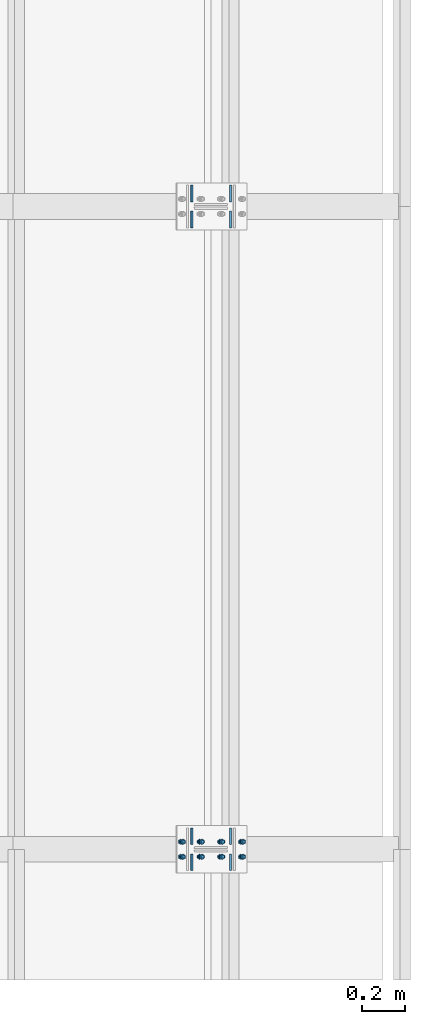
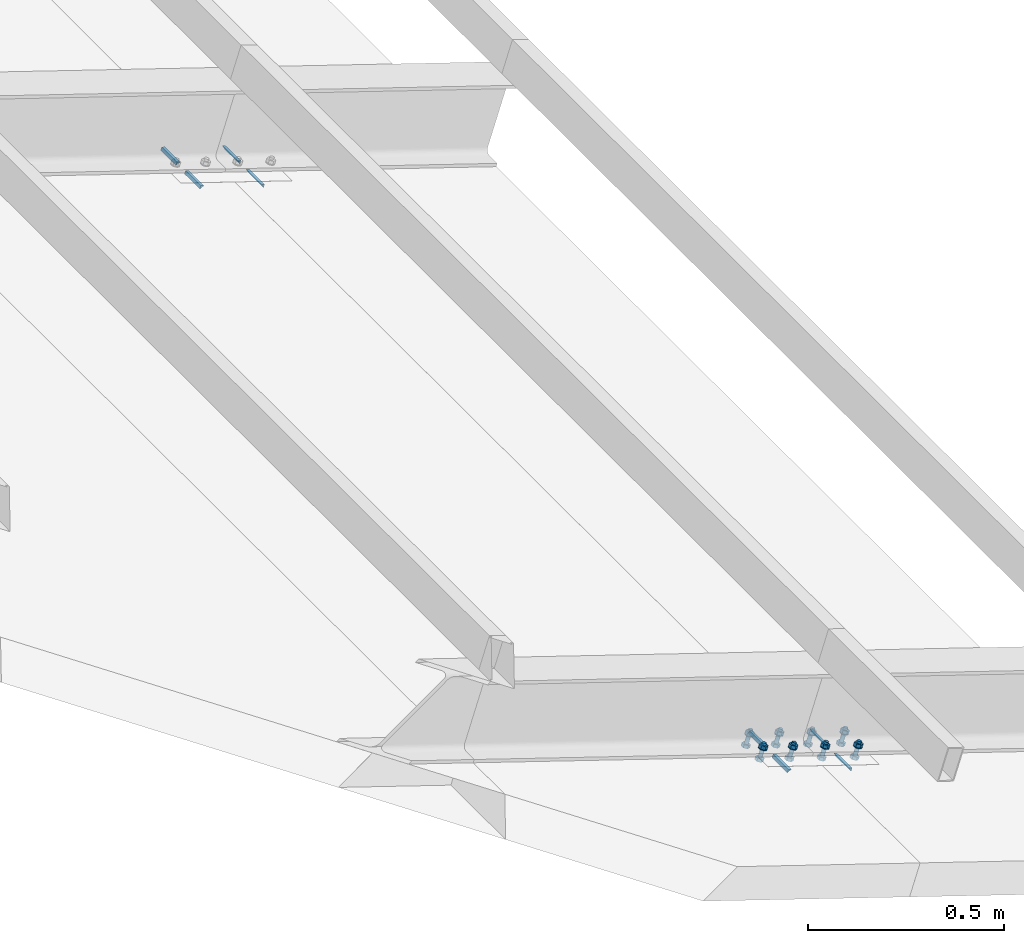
# One storey, part 30 of 53: 32 mechanical fasteners, 16 fasteners.
"""IFC4 building model written with IfcOpenShell, lengths in metres."""

from ifc_helpers import new_model, si_unit, frame, origin_with_axes, place, context, project, spatial, polyline, outline, extrude, type_object, element, save


model = new_model("IFC4")

# Units and contexts
model_context = context("Model", 3, precision=1e-05, world=origin_with_axes())
ifc_project = project(units=[si_unit("LENGTHUNIT", "METRE"), si_unit("AREAUNIT", "SQUARE_METRE"), si_unit("VOLUMEUNIT", "CUBIC_METRE"), si_unit("MASSUNIT", "GRAM", prefix="KILO"), si_unit("TIMEUNIT", "SECOND"), si_unit("PLANEANGLEUNIT", "RADIAN"), si_unit("SOLIDANGLEUNIT", "STERADIAN"), si_unit("THERMODYNAMICTEMPERATUREUNIT", "DEGREE_CELSIUS")], contexts=[model_context])

# Site, building, storey
placement_1 = place(None, origin_with_axes())
site = spatial("IfcSite", under=ifc_project, at=placement_1, Name="Italia", CompositionType="ELEMENT")
building = spatial("IfcBuilding", under=site, at=placement_1, Name="Capannone", CompositionType="ELEMENT")
storey_placement = place(None, frame((0.0, 0.0, 5.550000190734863), z_axis=(0.0, 0.0, 1.0), x_axis=(1.0, 0.0, 0.0)))
storey = spatial("IfcBuildingStorey", under=building, at=storey_placement, Name="Storey 1", CompositionType="ELEMENT", Elevation=5.550000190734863)

# Fasteners
fastener_type_1 = type_object("IfcFastenerType", Name="Collegamenti 0102_0002 0104_0004 0106_0006 0108_0008 0110_0010 0112_0012", PredefinedType="WELD")
placement_2 = place(placement_1, origin_with_axes())
fastener_1_placement = place(placement_2, origin_with_axes())
element("IfcFastener", 1, at=fastener_1_placement, inside=storey, type_object=fastener_type_1, Name="Collegamenti 0102_0002 0104_0004 0106_0006 0108_0008 0110_0010 0112_0012", context=model_context, shape_type="SweptSolid", body=[
    extrude(outline(polyline([(0.0, 0.0), (-0.0125504, -0.00658464), (-0.00937462, 0.00308037), (0.0, 0.0)])), frame((13.9153, 0.10005, 5.56208), z_axis=(0.0, -1.0, 0.0), x_axis=(1.0, 0.0, 0.0)), (0.0, 0.0, 1.0), 0.0786),
])
fastener_type_2 = type_object("IfcFastenerType", Name="Collegamenti 0102_0002 0104_0004 0106_0006 0108_0008 0110_0010 0112_0012", PredefinedType="WELD")
fastener_2_placement = place(placement_2, origin_with_axes())
element("IfcFastener", 2, at=fastener_2_placement, inside=storey, type_object=fastener_type_2, Name="Collegamenti 0102_0002 0104_0004 0106_0006 0108_0008 0110_0010 0112_0012", context=model_context, shape_type="SweptSolid", body=[
    extrude(outline(polyline([(0.0, 0.0), (-0.00619984, -0.0127454), (-0.00937557, -0.00308037), (0.0, 0.0)])), frame((14.0847, 0.02145, 5.50644), z_axis=(0.0, 1.0, 0.0), x_axis=(-1.0, 0.0, 0.0)), (0.0, 0.0, 1.0), 0.0786),
])
fastener_type_3 = type_object("IfcFastenerType", Name="Collegamenti 0102_0002 0104_0004 0106_0006 0108_0008 0110_0010 0112_0012", PredefinedType="WELD")
fastener_3_placement = place(placement_2, origin_with_axes())
element("IfcFastener", 3, at=fastener_3_placement, inside=storey, type_object=fastener_type_3, Name="Collegamenti 0102_0002 0104_0004 0106_0006 0108_0008 0110_0010 0112_0012", context=model_context, shape_type="SweptSolid", body=[
    extrude(outline(polyline([(0.0, 0.0), (-0.00619984, -0.0127454), (-0.00937557, -0.00308037), (0.0, 0.0)])), frame((14.0847, -0.10005, 5.50644), z_axis=(0.0, 1.0, 0.0), x_axis=(-1.0, 0.0, 0.0)), (0.0, 0.0, 1.0), 0.0786),
])
fastener_type_4 = type_object("IfcFastenerType", Name="Collegamenti 0102_0002 0104_0004 0106_0006 0108_0008 0110_0010 0112_0012", PredefinedType="WELD")
fastener_4_placement = place(placement_2, origin_with_axes())
element("IfcFastener", 4, at=fastener_4_placement, inside=storey, type_object=fastener_type_4, Name="Collegamenti 0102_0002 0104_0004 0106_0006 0108_0008 0110_0010 0112_0012", context=model_context, shape_type="SweptSolid", body=[
    extrude(outline(polyline([(0.0, 0.0), (-0.0125504, -0.00658464), (-0.00937462, 0.00308037), (0.0, 0.0)])), frame((13.9153, -0.02145, 5.56208), z_axis=(0.0, -1.0, 0.0), x_axis=(1.0, 0.0, 0.0)), (0.0, 0.0, 1.0), 0.0786),
])
fastener_type_5 = type_object("IfcFastenerType", Name="Collegamenti 0102_0002 0104_0004 0106_0006 0108_0008 0110_0010 0112_0012", PredefinedType="WELD")
fastener_5_placement = place(placement_2, origin_with_axes())
element("IfcFastener", 5, at=fastener_5_placement, inside=storey, type_object=fastener_type_5, Name="Collegamenti 0102_0002 0104_0004 0106_0006 0108_0008 0110_0010 0112_0012", context=model_context, shape_type="SweptSolid", body=[
    extrude(outline(polyline([(0.0, 0.0), (-0.0125504, -0.00658464), (-0.00937462, 0.00308037), (0.0, 0.0)])), frame((13.9153, 0.10005, 5.56208), z_axis=(0.0, -1.0, 0.0), x_axis=(1.0, 0.0, 0.0)), (0.0, 0.0, 1.0), 0.0786),
])
fastener_type_6 = type_object("IfcFastenerType", Name="Collegamenti 0102_0002 0104_0004 0106_0006 0108_0008 0110_0010 0112_0012", PredefinedType="WELD")
fastener_6_placement = place(placement_2, origin_with_axes())
element("IfcFastener", 6, at=fastener_6_placement, inside=storey, type_object=fastener_type_6, Name="Collegamenti 0102_0002 0104_0004 0106_0006 0108_0008 0110_0010 0112_0012", context=model_context, shape_type="SweptSolid", body=[
    extrude(outline(polyline([(0.0, 0.0), (-0.00619984, -0.0127454), (-0.00937557, -0.00308037), (0.0, 0.0)])), frame((14.0847, 0.02145, 5.50644), z_axis=(0.0, 1.0, 0.0), x_axis=(-1.0, 0.0, 0.0)), (0.0, 0.0, 1.0), 0.0786),
])
fastener_type_7 = type_object("IfcFastenerType", Name="Collegamenti 0102_0002 0104_0004 0106_0006 0108_0008 0110_0010 0112_0012", PredefinedType="WELD")
fastener_7_placement = place(placement_2, origin_with_axes())
element("IfcFastener", 7, at=fastener_7_placement, inside=storey, type_object=fastener_type_7, Name="Collegamenti 0102_0002 0104_0004 0106_0006 0108_0008 0110_0010 0112_0012", context=model_context, shape_type="SweptSolid", body=[
    extrude(outline(polyline([(0.0, 0.0), (-0.00619984, -0.0127454), (-0.00937557, -0.00308037), (0.0, 0.0)])), frame((14.0847, -0.10005, 5.50644), z_axis=(0.0, 1.0, 0.0), x_axis=(-1.0, 0.0, 0.0)), (0.0, 0.0, 1.0), 0.0786),
])
fastener_type_8 = type_object("IfcFastenerType", Name="Collegamenti 0102_0002 0104_0004 0106_0006 0108_0008 0110_0010 0112_0012", PredefinedType="WELD")
fastener_8_placement = place(placement_2, origin_with_axes())
element("IfcFastener", 8, at=fastener_8_placement, inside=storey, type_object=fastener_type_8, Name="Collegamenti 0102_0002 0104_0004 0106_0006 0108_0008 0110_0010 0112_0012", context=model_context, shape_type="SweptSolid", body=[
    extrude(outline(polyline([(0.0, 0.0), (-0.0125504, -0.00658464), (-0.00937462, 0.00308037), (0.0, 0.0)])), frame((13.9153, -0.02145, 5.56208), z_axis=(0.0, -1.0, 0.0), x_axis=(1.0, 0.0, 0.0)), (0.0, 0.0, 1.0), 0.0786),
])

# Mechanical fasteners
mechanical_fastener_type_1 = type_object("IfcMechanicalFastenerType", Name="Collegamenti 0102_0002 0104_0004 0106_0006 0108_0008 0110_0010 0112_0012", PredefinedType="BOLT")
mechanical_fastener_1_placement = place(placement_2, origin_with_axes())
element("IfcMechanicalFastener", 9, at=mechanical_fastener_1_placement, inside=storey, type_object=mechanical_fastener_type_1, Name="Collegamenti 0102_0002 0104_0004 0106_0006 0108_0008 0110_0010 0112_0012", NominalDiameter=0.012, context=model_context, shape_type="SweptSolid", body=[
    extrude(outline(polyline([(0.0, 0.0), (-0.012, 0.0), (-0.018, 0.0103931), (-0.012, 0.0207853), (0.0, 0.0207853), (0.006, 0.0103931), (0.0, 0.0)])), frame((13.8697, 0.029, 5.57702), z_axis=(-0.312231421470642, 0.0, -0.950006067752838), x_axis=(0.0, -1.0, 0.0)), (0.0, 0.0, 1.0), 0.00959993),
])
mechanical_fastener_type_2 = type_object("IfcMechanicalFastenerType", Name="Collegamenti 0102_0002 0104_0004 0106_0006 0108_0008 0110_0010 0112_0012", PredefinedType="BOLT")
mechanical_fastener_2_placement = place(placement_2, origin_with_axes())
element("IfcMechanicalFastener", 10, at=mechanical_fastener_2_placement, inside=storey, type_object=mechanical_fastener_type_2, Name="Collegamenti 0102_0002 0104_0004 0106_0006 0108_0008 0110_0010 0112_0012", NominalDiameter=0.012, context=model_context, shape_type="SweptSolid", body=[
    extrude(outline(polyline([(0.0, 0.0), (-0.000204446, -0.00155354), (-0.000803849, -0.00300121), (-0.00175736, -0.0042429), (-0.003, -0.00519562), (-0.00444709, -0.00579548), (-0.006, -0.00599957), (-0.00755291, -0.00579548), (-0.009, -0.00519562), (-0.0102426, -0.0042429), (-0.0111962, -0.00300121), (-0.0117956, -0.00155354), (-0.012, 0.0), (-0.0117956, 0.00155258), (-0.0111962, 0.00300026), (-0.0102426, 0.00424194), (-0.009, 0.00519562), (-0.00755291, 0.00579548), (-0.006, 0.00599957), (-0.00444709, 0.00579548), (-0.003, 0.00519562), (-0.00175736, 0.00424194), (-0.000803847, 0.00300026), (-0.000204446, 0.00155258), (0.0, 0.0)])), frame((13.8732, 0.029, 5.62092), z_axis=(-0.312153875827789, 0.0, -0.950031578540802), x_axis=(0.0, -1.0, 0.0)), (0.0, 0.0, 1.0), 0.0427995),
])
mechanical_fastener_type_3 = type_object("IfcMechanicalFastenerType", Name="Collegamenti 0102_0002 0104_0004 0106_0006 0108_0008 0110_0010 0112_0012", PredefinedType="BOLT")
mechanical_fastener_3_placement = place(placement_2, origin_with_axes())
element("IfcMechanicalFastener", 11, at=mechanical_fastener_3_placement, inside=storey, type_object=mechanical_fastener_type_3, Name="Collegamenti 0102_0002 0104_0004 0106_0006 0108_0008 0110_0010 0112_0012", NominalDiameter=0.0119995, context=model_context, shape_type="SweptSolid", body=[
    extrude(outline(polyline([(0.0, 0.0), (-0.012, 0.0), (-0.018, 0.0103922), (-0.012, 0.0207844), (0.0, 0.0207844), (0.006, 0.0103922), (0.0, 0.0)])), frame((13.8811, 0.029, 5.6116), z_axis=(-0.312141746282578, 0.0, -0.950035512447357), x_axis=(0.0, -1.0, 0.0)), (0.0, 0.0, 1.0), 0.00959963),
])
mechanical_fastener_type_4 = type_object("IfcMechanicalFastenerType", Name="Collegamenti 0102_0002 0104_0004 0106_0006 0108_0008 0110_0010 0112_0012", PredefinedType="BOLT")
mechanical_fastener_4_placement = place(placement_2, origin_with_axes())
element("IfcMechanicalFastener", 12, at=mechanical_fastener_4_placement, inside=storey, type_object=mechanical_fastener_type_4, Name="Collegamenti 0102_0002 0104_0004 0106_0006 0108_0008 0110_0010 0112_0012", NominalDiameter=0.024, context=model_context, shape_type="SweptSolid", body=[
    extrude(outline(polyline([(0.0, 0.0), (-0.00040889, -0.00310612), (-0.0016077, -0.00600052), (-0.00351472, -0.00848484), (-0.006, -0.0103931), (-0.00889417, -0.011591), (-0.012, -0.0120001), (-0.0151058, -0.011591), (-0.018, -0.0103931), (-0.0204853, -0.00848484), (-0.0223923, -0.00600052), (-0.0235911, -0.00310612), (-0.024, 0.0), (-0.0235911, 0.00310516), (-0.0223923, 0.00599957), (-0.0204853, 0.00848484), (-0.018, 0.0103922), (-0.0151058, 0.01159), (-0.012, 0.0119991), (-0.00889417, 0.01159), (-0.006, 0.0103922), (-0.00351472, 0.00848484), (-0.00160769, 0.00599957), (-0.00040889, 0.00310516), (0.0, 0.0)])), frame((13.8682, 0.023, 5.60572), z_axis=(-0.312362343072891, 0.0, -0.94996303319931), x_axis=(0.0, -1.0, 0.0)), (0.0, 0.0, 1.0), 0.00199978),
])
mechanical_fastener_type_5 = type_object("IfcMechanicalFastenerType", Name="Collegamenti 0102_0002 0104_0004 0106_0006 0108_0008 0110_0010 0112_0012", PredefinedType="BOLT")
mechanical_fastener_5_placement = place(placement_2, origin_with_axes())
element("IfcMechanicalFastener", 13, at=mechanical_fastener_5_placement, inside=storey, type_object=mechanical_fastener_type_5, Name="Collegamenti 0102_0002 0104_0004 0106_0006 0108_0008 0110_0010 0112_0012", NominalDiameter=0.012, context=model_context, shape_type="SweptSolid", body=[
    extrude(outline(polyline([(0.0, 0.0), (-0.012, 0.0), (-0.018, 0.0103931), (-0.012, 0.0207853), (0.0, 0.0207853), (0.006, 0.0103931), (0.0, 0.0)])), frame((13.8697, -0.041, 5.57702), z_axis=(-0.312231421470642, 0.0, -0.950006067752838), x_axis=(0.0, -1.0, 0.0)), (0.0, 0.0, 1.0), 0.00959993),
])
mechanical_fastener_type_6 = type_object("IfcMechanicalFastenerType", Name="Collegamenti 0102_0002 0104_0004 0106_0006 0108_0008 0110_0010 0112_0012", PredefinedType="BOLT")
mechanical_fastener_6_placement = place(placement_2, origin_with_axes())
element("IfcMechanicalFastener", 14, at=mechanical_fastener_6_placement, inside=storey, type_object=mechanical_fastener_type_6, Name="Collegamenti 0102_0002 0104_0004 0106_0006 0108_0008 0110_0010 0112_0012", NominalDiameter=0.012, context=model_context, shape_type="SweptSolid", body=[
    extrude(outline(polyline([(0.0, 0.0), (-0.000204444, -0.00155354), (-0.000803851, -0.00300121), (-0.00175736, -0.0042429), (-0.003, -0.00519562), (-0.00444709, -0.00579548), (-0.006, -0.00599957), (-0.00755291, -0.00579548), (-0.009, -0.00519562), (-0.0102426, -0.0042429), (-0.0111962, -0.00300121), (-0.0117956, -0.00155354), (-0.012, 0.0), (-0.0117956, 0.00155258), (-0.0111962, 0.00300026), (-0.0102426, 0.00424194), (-0.009, 0.00519562), (-0.00755291, 0.00579548), (-0.006, 0.00599957), (-0.00444709, 0.00579548), (-0.003, 0.00519562), (-0.00175736, 0.00424194), (-0.000803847, 0.00300026), (-0.000204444, 0.00155258), (0.0, 0.0)])), frame((13.8732, -0.041, 5.62092), z_axis=(-0.312153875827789, 0.0, -0.950031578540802), x_axis=(0.0, -1.0, 0.0)), (0.0, 0.0, 1.0), 0.0427995),
])
mechanical_fastener_type_7 = type_object("IfcMechanicalFastenerType", Name="Collegamenti 0102_0002 0104_0004 0106_0006 0108_0008 0110_0010 0112_0012", PredefinedType="BOLT")
mechanical_fastener_7_placement = place(placement_2, origin_with_axes())
element("IfcMechanicalFastener", 15, at=mechanical_fastener_7_placement, inside=storey, type_object=mechanical_fastener_type_7, Name="Collegamenti 0102_0002 0104_0004 0106_0006 0108_0008 0110_0010 0112_0012", NominalDiameter=0.0119995, context=model_context, shape_type="SweptSolid", body=[
    extrude(outline(polyline([(0.0, 0.0), (-0.012, 0.0), (-0.018, 0.0103922), (-0.012, 0.0207844), (0.0, 0.0207844), (0.006, 0.0103922), (0.0, 0.0)])), frame((13.8811, -0.041, 5.6116), z_axis=(-0.312141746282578, 0.0, -0.950035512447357), x_axis=(0.0, -1.0, 0.0)), (0.0, 0.0, 1.0), 0.00959963),
])
mechanical_fastener_type_8 = type_object("IfcMechanicalFastenerType", Name="Collegamenti 0102_0002 0104_0004 0106_0006 0108_0008 0110_0010 0112_0012", PredefinedType="BOLT")
mechanical_fastener_8_placement = place(placement_2, origin_with_axes())
element("IfcMechanicalFastener", 16, at=mechanical_fastener_8_placement, inside=storey, type_object=mechanical_fastener_type_8, Name="Collegamenti 0102_0002 0104_0004 0106_0006 0108_0008 0110_0010 0112_0012", NominalDiameter=0.024, context=model_context, shape_type="SweptSolid", body=[
    extrude(outline(polyline([(0.0, 0.0), (-0.000408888, -0.00310612), (-0.00160769, -0.00600052), (-0.00351472, -0.00848484), (-0.006, -0.0103931), (-0.00889417, -0.011591), (-0.012, -0.0120001), (-0.0151058, -0.011591), (-0.018, -0.0103931), (-0.0204853, -0.00848484), (-0.0223923, -0.00600052), (-0.0235911, -0.00310612), (-0.024, 0.0), (-0.0235911, 0.00310516), (-0.0223923, 0.00599957), (-0.0204853, 0.00848484), (-0.018, 0.0103922), (-0.0151058, 0.01159), (-0.012, 0.0119991), (-0.00889417, 0.01159), (-0.006, 0.0103922), (-0.00351471, 0.00848484), (-0.00160769, 0.00599957), (-0.000408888, 0.00310516), (0.0, 0.0)])), frame((13.8682, -0.047, 5.60572), z_axis=(-0.312362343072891, 0.0, -0.94996303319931), x_axis=(0.0, -1.0, 0.0)), (0.0, 0.0, 1.0), 0.00199978),
])
mechanical_fastener_type_9 = type_object("IfcMechanicalFastenerType", Name="Collegamenti 0102_0002 0104_0004 0106_0006 0108_0008 0110_0010 0112_0012", PredefinedType="BOLT")
mechanical_fastener_9_placement = place(placement_2, origin_with_axes())
element("IfcMechanicalFastener", 17, at=mechanical_fastener_9_placement, inside=storey, type_object=mechanical_fastener_type_9, Name="Collegamenti 0102_0002 0104_0004 0106_0006 0108_0008 0110_0010 0112_0012", NominalDiameter=0.0119995, context=model_context, shape_type="SweptSolid", body=[
    extrude(outline(polyline([(0.0, 0.0), (-0.012, 0.0), (-0.018, 0.0103931), (-0.012, 0.0207844), (0.0, 0.0207844), (0.006, 0.0103931), (0.0, 0.0)])), frame((14.0527, 0.029, 5.5169), z_axis=(-0.312127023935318, 0.0, -0.950040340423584), x_axis=(0.0, -1.0, 0.0)), (0.0, 0.0, 1.0), 0.00960008),
])
mechanical_fastener_type_10 = type_object("IfcMechanicalFastenerType", Name="Collegamenti 0102_0002 0104_0004 0106_0006 0108_0008 0110_0010 0112_0012", PredefinedType="BOLT")
mechanical_fastener_10_placement = place(placement_2, origin_with_axes())
element("IfcMechanicalFastener", 18, at=mechanical_fastener_10_placement, inside=storey, type_object=mechanical_fastener_type_10, Name="Collegamenti 0102_0002 0104_0004 0106_0006 0108_0008 0110_0010 0112_0012", NominalDiameter=0.012, context=model_context, shape_type="SweptSolid", body=[
    extrude(outline(polyline([(0.0, 0.0), (-0.000204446, -0.00155258), (-0.000803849, -0.00300026), (-0.00175736, -0.00424194), (-0.003, -0.00519562), (-0.00444709, -0.00579453), (-0.006, -0.00599957), (-0.00755291, -0.00579453), (-0.009, -0.00519562), (-0.0102426, -0.00424194), (-0.0111962, -0.00300026), (-0.0117956, -0.00155258), (-0.012, 0.0), (-0.0117956, 0.00155354), (-0.0111962, 0.00300026), (-0.0102426, 0.00424194), (-0.009, 0.00519657), (-0.00755291, 0.00579548), (-0.006, 0.00600052), (-0.00444709, 0.00579548), (-0.003, 0.00519657), (-0.00175736, 0.00424194), (-0.000803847, 0.00300026), (-0.000204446, 0.00155354), (0.0, 0.0)])), frame((14.0562, 0.029, 5.5608), z_axis=(-0.312150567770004, 0.0, -0.950032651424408), x_axis=(0.0, -1.0, 0.0)), (0.0, 0.0, 1.0), 0.0427999),
])
mechanical_fastener_type_11 = type_object("IfcMechanicalFastenerType", Name="Collegamenti 0102_0002 0104_0004 0106_0006 0108_0008 0110_0010 0112_0012", PredefinedType="BOLT")
mechanical_fastener_11_placement = place(placement_2, origin_with_axes())
element("IfcMechanicalFastener", 19, at=mechanical_fastener_11_placement, inside=storey, type_object=mechanical_fastener_type_11, Name="Collegamenti 0102_0002 0104_0004 0106_0006 0108_0008 0110_0010 0112_0012", NominalDiameter=0.0119995, context=model_context, shape_type="SweptSolid", body=[
    extrude(outline(polyline([(0.0, 0.0), (-0.012, 0.0), (-0.018, 0.0103912), (-0.012, 0.0207834), (0.0, 0.0207834), (0.006, 0.0103912), (0.0, 0.0)])), frame((14.0641, 0.029, 5.55148), z_axis=(-0.312127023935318, 0.0, -0.950040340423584), x_axis=(0.0, -1.0, 0.0)), (0.0, 0.0, 1.0), 0.00960008),
])
mechanical_fastener_type_12 = type_object("IfcMechanicalFastenerType", Name="Collegamenti 0102_0002 0104_0004 0106_0006 0108_0008 0110_0010 0112_0012", PredefinedType="BOLT")
mechanical_fastener_12_placement = place(placement_2, origin_with_axes())
element("IfcMechanicalFastener", 20, at=mechanical_fastener_12_placement, inside=storey, type_object=mechanical_fastener_type_12, Name="Collegamenti 0102_0002 0104_0004 0106_0006 0108_0008 0110_0010 0112_0012", NominalDiameter=0.024, context=model_context, shape_type="SweptSolid", body=[
    extrude(outline(polyline([(0.0, 0.0), (-0.00040889, -0.00310516), (-0.0016077, -0.00599957), (-0.00351472, -0.00848579), (-0.006, -0.0103912), (-0.00889417, -0.011591), (-0.012, -0.0119991), (-0.0151058, -0.011591), (-0.018, -0.0103912), (-0.0204853, -0.00848579), (-0.0223923, -0.00599957), (-0.0235911, -0.00310516), (-0.024, 0.0), (-0.0235911, 0.00310612), (-0.0223923, 0.00600052), (-0.0204853, 0.00848675), (-0.018, 0.0103922), (-0.0151058, 0.011591), (-0.012, 0.0120001), (-0.00889417, 0.011591), (-0.006, 0.0103922), (-0.00351472, 0.00848675), (-0.00160769, 0.00600052), (-0.00040889, 0.00310612), (0.0, 0.0)])), frame((14.0512, 0.023, 5.5456), z_axis=(-0.311931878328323, 0.0, -0.950104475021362), x_axis=(0.0, -1.0, 0.0)), (0.0, 0.0, 1.0), 0.00199948),
])
mechanical_fastener_type_13 = type_object("IfcMechanicalFastenerType", Name="Collegamenti 0102_0002 0104_0004 0106_0006 0108_0008 0110_0010 0112_0012", PredefinedType="BOLT")
mechanical_fastener_13_placement = place(placement_2, origin_with_axes())
element("IfcMechanicalFastener", 21, at=mechanical_fastener_13_placement, inside=storey, type_object=mechanical_fastener_type_13, Name="Collegamenti 0102_0002 0104_0004 0106_0006 0108_0008 0110_0010 0112_0012", NominalDiameter=0.0119995, context=model_context, shape_type="SweptSolid", body=[
    extrude(outline(polyline([(0.0, 0.0), (-0.012, 0.0), (-0.018, 0.0103931), (-0.012, 0.0207844), (0.0, 0.0207844), (0.006, 0.0103931), (0.0, 0.0)])), frame((14.0527, -0.041, 5.5169), z_axis=(-0.312127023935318, 0.0, -0.950040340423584), x_axis=(0.0, -1.0, 0.0)), (0.0, 0.0, 1.0), 0.00960008),
])
mechanical_fastener_type_14 = type_object("IfcMechanicalFastenerType", Name="Collegamenti 0102_0002 0104_0004 0106_0006 0108_0008 0110_0010 0112_0012", PredefinedType="BOLT")
mechanical_fastener_14_placement = place(placement_2, origin_with_axes())
element("IfcMechanicalFastener", 22, at=mechanical_fastener_14_placement, inside=storey, type_object=mechanical_fastener_type_14, Name="Collegamenti 0102_0002 0104_0004 0106_0006 0108_0008 0110_0010 0112_0012", NominalDiameter=0.012, context=model_context, shape_type="SweptSolid", body=[
    extrude(outline(polyline([(0.0, 0.0), (-0.000204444, -0.00155258), (-0.000803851, -0.00300026), (-0.00175736, -0.00424194), (-0.003, -0.00519562), (-0.00444709, -0.00579453), (-0.006, -0.00599957), (-0.00755291, -0.00579453), (-0.009, -0.00519562), (-0.0102426, -0.00424194), (-0.0111962, -0.00300026), (-0.0117956, -0.00155258), (-0.012, 0.0), (-0.0117956, 0.00155354), (-0.0111962, 0.00300026), (-0.0102426, 0.00424194), (-0.009, 0.00519657), (-0.00755291, 0.00579548), (-0.006, 0.00600052), (-0.00444709, 0.00579548), (-0.003, 0.00519657), (-0.00175736, 0.00424194), (-0.000803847, 0.00300026), (-0.000204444, 0.00155354), (0.0, 0.0)])), frame((14.0562, -0.041, 5.5608), z_axis=(-0.312150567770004, 0.0, -0.950032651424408), x_axis=(0.0, -1.0, 0.0)), (0.0, 0.0, 1.0), 0.0427999),
])
mechanical_fastener_type_15 = type_object("IfcMechanicalFastenerType", Name="Collegamenti 0102_0002 0104_0004 0106_0006 0108_0008 0110_0010 0112_0012", PredefinedType="BOLT")
mechanical_fastener_15_placement = place(placement_2, origin_with_axes())
element("IfcMechanicalFastener", 23, at=mechanical_fastener_15_placement, inside=storey, type_object=mechanical_fastener_type_15, Name="Collegamenti 0102_0002 0104_0004 0106_0006 0108_0008 0110_0010 0112_0012", NominalDiameter=0.0119995, context=model_context, shape_type="SweptSolid", body=[
    extrude(outline(polyline([(0.0, 0.0), (-0.012, 0.0), (-0.018, 0.0103912), (-0.012, 0.0207834), (0.0, 0.0207834), (0.006, 0.0103912), (0.0, 0.0)])), frame((14.0641, -0.041, 5.55148), z_axis=(-0.312127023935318, 0.0, -0.950040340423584), x_axis=(0.0, -1.0, 0.0)), (0.0, 0.0, 1.0), 0.00960008),
])
mechanical_fastener_type_16 = type_object("IfcMechanicalFastenerType", Name="Collegamenti 0102_0002 0104_0004 0106_0006 0108_0008 0110_0010 0112_0012", PredefinedType="BOLT")
mechanical_fastener_16_placement = place(placement_2, origin_with_axes())
element("IfcMechanicalFastener", 24, at=mechanical_fastener_16_placement, inside=storey, type_object=mechanical_fastener_type_16, Name="Collegamenti 0102_0002 0104_0004 0106_0006 0108_0008 0110_0010 0112_0012", NominalDiameter=0.024, context=model_context, shape_type="SweptSolid", body=[
    extrude(outline(polyline([(0.0, 0.0), (-0.000408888, -0.00310516), (-0.00160769, -0.00599957), (-0.00351472, -0.00848579), (-0.006, -0.0103912), (-0.00889417, -0.011591), (-0.012, -0.0119991), (-0.0151058, -0.011591), (-0.018, -0.0103912), (-0.0204853, -0.00848579), (-0.0223923, -0.00599957), (-0.0235911, -0.00310516), (-0.024, 0.0), (-0.0235911, 0.00310612), (-0.0223923, 0.00600052), (-0.0204853, 0.00848675), (-0.018, 0.0103922), (-0.0151058, 0.011591), (-0.012, 0.0120001), (-0.00889417, 0.011591), (-0.006, 0.0103922), (-0.00351471, 0.00848675), (-0.00160769, 0.00600052), (-0.000408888, 0.00310612), (0.0, 0.0)])), frame((14.0512, -0.047, 5.5456), z_axis=(-0.311931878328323, 0.0, -0.950104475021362), x_axis=(0.0, -1.0, 0.0)), (0.0, 0.0, 1.0), 0.00199948),
])
mechanical_fastener_type_17 = type_object("IfcMechanicalFastenerType", Name="Collegamenti 0102_0002 0104_0004 0106_0006 0108_0008 0110_0010 0112_0012", PredefinedType="BOLT")
mechanical_fastener_17_placement = place(placement_2, origin_with_axes())
element("IfcMechanicalFastener", 25, at=mechanical_fastener_17_placement, inside=storey, type_object=mechanical_fastener_type_17, Name="Collegamenti 0102_0002 0104_0004 0106_0006 0108_0008 0110_0010 0112_0012", NominalDiameter=0.0119996, context=model_context, shape_type="SweptSolid", body=[
    extrude(outline(polyline([(0.0, 0.0), (-0.012, 0.0), (-0.018, 0.0103931), (-0.012, 0.0207853), (0.0, 0.0207853), (0.006, 0.0103931), (0.0, 0.0)])), frame((13.9577, 0.029, 5.54811), z_axis=(-0.312141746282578, 0.0, -0.950035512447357), x_axis=(0.0, -1.0, 0.0)), (0.0, 0.0, 1.0), 0.00959963),
])
mechanical_fastener_type_18 = type_object("IfcMechanicalFastenerType", Name="Collegamenti 0102_0002 0104_0004 0106_0006 0108_0008 0110_0010 0112_0012", PredefinedType="BOLT")
mechanical_fastener_18_placement = place(placement_2, origin_with_axes())
element("IfcMechanicalFastener", 26, at=mechanical_fastener_18_placement, inside=storey, type_object=mechanical_fastener_type_18, Name="Collegamenti 0102_0002 0104_0004 0106_0006 0108_0008 0110_0010 0112_0012", NominalDiameter=0.012, context=model_context, shape_type="SweptSolid", body=[
    extrude(outline(polyline([(0.0, 0.0), (-0.000204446, -0.00155354), (-0.000803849, -0.00300121), (-0.00175736, -0.00424194), (-0.003, -0.00519562), (-0.00444709, -0.00579453), (-0.006, -0.00599957), (-0.00755291, -0.00579453), (-0.009, -0.00519562), (-0.0102426, -0.00424194), (-0.0111962, -0.00300121), (-0.0117956, -0.00155354), (-0.012, 0.0), (-0.0117956, 0.00155354), (-0.0111962, 0.00300026), (-0.0102426, 0.00424194), (-0.009, 0.00519657), (-0.00755291, 0.00579548), (-0.006, 0.00599957), (-0.00444709, 0.00579548), (-0.003, 0.00519657), (-0.00175736, 0.00424194), (-0.000803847, 0.00300026), (-0.000204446, 0.00155354), (0.0, 0.0)])), frame((13.9612, 0.029, 5.59202), z_axis=(-0.312147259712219, 0.0, -0.950033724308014), x_axis=(0.0, -1.0, 0.0)), (0.0, 0.0, 1.0), 0.0428004),
])
mechanical_fastener_type_19 = type_object("IfcMechanicalFastenerType", Name="Collegamenti 0102_0002 0104_0004 0106_0006 0108_0008 0110_0010 0112_0012", PredefinedType="BOLT")
mechanical_fastener_19_placement = place(placement_2, origin_with_axes())
element("IfcMechanicalFastener", 27, at=mechanical_fastener_19_placement, inside=storey, type_object=mechanical_fastener_type_19, Name="Collegamenti 0102_0002 0104_0004 0106_0006 0108_0008 0110_0010 0112_0012", NominalDiameter=0.0119995, context=model_context, shape_type="SweptSolid", body=[
    extrude(outline(polyline([(0.0, 0.0), (-0.012, 0.0), (-0.018, 0.0103922), (-0.012, 0.0207844), (0.0, 0.0207844), (0.006, 0.0103922), (0.0, 0.0)])), frame((13.9691, 0.029, 5.5827), z_axis=(-0.312127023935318, 0.0, -0.950040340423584), x_axis=(0.0, -1.0, 0.0)), (0.0, 0.0, 1.0), 0.00960008),
])
mechanical_fastener_type_20 = type_object("IfcMechanicalFastenerType", Name="Collegamenti 0102_0002 0104_0004 0106_0006 0108_0008 0110_0010 0112_0012", PredefinedType="BOLT")
mechanical_fastener_20_placement = place(placement_2, origin_with_axes())
element("IfcMechanicalFastener", 28, at=mechanical_fastener_20_placement, inside=storey, type_object=mechanical_fastener_type_20, Name="Collegamenti 0102_0002 0104_0004 0106_0006 0108_0008 0110_0010 0112_0012", NominalDiameter=0.024, context=model_context, shape_type="SweptSolid", body=[
    extrude(outline(polyline([(0.0, 0.0), (-0.00040889, -0.00310516), (-0.0016077, -0.00600052), (-0.00351472, -0.00848484), (-0.006, -0.0103931), (-0.00889417, -0.011591), (-0.012, -0.0120001), (-0.0151058, -0.011591), (-0.018, -0.0103931), (-0.0204853, -0.00848484), (-0.0223923, -0.00600052), (-0.0235911, -0.00310516), (-0.024, 0.0), (-0.0235911, 0.00310516), (-0.0223923, 0.00599957), (-0.0204853, 0.00848579), (-0.018, 0.0103922), (-0.0151058, 0.011591), (-0.012, 0.0120001), (-0.00889417, 0.011591), (-0.006, 0.0103922), (-0.00351472, 0.00848579), (-0.00160769, 0.00599957), (-0.00040889, 0.00310516), (0.0, 0.0)])), frame((13.9562, 0.023, 5.57682), z_axis=(-0.311790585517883, 0.0, -0.950150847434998), x_axis=(0.0, -1.0, 0.0)), (0.0, 0.0, 1.0), 0.00200039),
])
mechanical_fastener_type_21 = type_object("IfcMechanicalFastenerType", Name="Collegamenti 0102_0002 0104_0004 0106_0006 0108_0008 0110_0010 0112_0012", PredefinedType="BOLT")
mechanical_fastener_21_placement = place(placement_2, origin_with_axes())
element("IfcMechanicalFastener", 29, at=mechanical_fastener_21_placement, inside=storey, type_object=mechanical_fastener_type_21, Name="Collegamenti 0102_0002 0104_0004 0106_0006 0108_0008 0110_0010 0112_0012", NominalDiameter=0.0119996, context=model_context, shape_type="SweptSolid", body=[
    extrude(outline(polyline([(0.0, 0.0), (-0.012, 0.0), (-0.018, 0.0103931), (-0.012, 0.0207853), (0.0, 0.0207853), (0.006, 0.0103931), (0.0, 0.0)])), frame((13.9577, -0.041, 5.54811), z_axis=(-0.312141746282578, 0.0, -0.950035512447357), x_axis=(0.0, -1.0, 0.0)), (0.0, 0.0, 1.0), 0.00959963),
])
mechanical_fastener_type_22 = type_object("IfcMechanicalFastenerType", Name="Collegamenti 0102_0002 0104_0004 0106_0006 0108_0008 0110_0010 0112_0012", PredefinedType="BOLT")
mechanical_fastener_22_placement = place(placement_2, origin_with_axes())
element("IfcMechanicalFastener", 30, at=mechanical_fastener_22_placement, inside=storey, type_object=mechanical_fastener_type_22, Name="Collegamenti 0102_0002 0104_0004 0106_0006 0108_0008 0110_0010 0112_0012", NominalDiameter=0.012, context=model_context, shape_type="SweptSolid", body=[
    extrude(outline(polyline([(0.0, 0.0), (-0.000204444, -0.00155354), (-0.000803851, -0.00300121), (-0.00175736, -0.00424194), (-0.003, -0.00519562), (-0.00444709, -0.00579453), (-0.006, -0.00599957), (-0.00755291, -0.00579453), (-0.009, -0.00519562), (-0.0102426, -0.00424194), (-0.0111962, -0.00300121), (-0.0117956, -0.00155354), (-0.012, 0.0), (-0.0117956, 0.00155354), (-0.0111962, 0.00300026), (-0.0102426, 0.00424194), (-0.009, 0.00519657), (-0.00755291, 0.00579548), (-0.006, 0.00599957), (-0.00444709, 0.00579548), (-0.003, 0.00519657), (-0.00175736, 0.00424194), (-0.000803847, 0.00300026), (-0.000204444, 0.00155354), (0.0, 0.0)])), frame((13.9612, -0.041, 5.59202), z_axis=(-0.312147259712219, 0.0, -0.950033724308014), x_axis=(0.0, -1.0, 0.0)), (0.0, 0.0, 1.0), 0.0428004),
])
mechanical_fastener_type_23 = type_object("IfcMechanicalFastenerType", Name="Collegamenti 0102_0002 0104_0004 0106_0006 0108_0008 0110_0010 0112_0012", PredefinedType="BOLT")
mechanical_fastener_23_placement = place(placement_2, origin_with_axes())
element("IfcMechanicalFastener", 31, at=mechanical_fastener_23_placement, inside=storey, type_object=mechanical_fastener_type_23, Name="Collegamenti 0102_0002 0104_0004 0106_0006 0108_0008 0110_0010 0112_0012", NominalDiameter=0.0119995, context=model_context, shape_type="SweptSolid", body=[
    extrude(outline(polyline([(0.0, 0.0), (-0.012, 0.0), (-0.018, 0.0103922), (-0.012, 0.0207844), (0.0, 0.0207844), (0.006, 0.0103922), (0.0, 0.0)])), frame((13.9691, -0.041, 5.5827), z_axis=(-0.312127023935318, 0.0, -0.950040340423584), x_axis=(0.0, -1.0, 0.0)), (0.0, 0.0, 1.0), 0.00960008),
])
mechanical_fastener_type_24 = type_object("IfcMechanicalFastenerType", Name="Collegamenti 0102_0002 0104_0004 0106_0006 0108_0008 0110_0010 0112_0012", PredefinedType="BOLT")
mechanical_fastener_24_placement = place(placement_2, origin_with_axes())
element("IfcMechanicalFastener", 32, at=mechanical_fastener_24_placement, inside=storey, type_object=mechanical_fastener_type_24, Name="Collegamenti 0102_0002 0104_0004 0106_0006 0108_0008 0110_0010 0112_0012", NominalDiameter=0.024, context=model_context, shape_type="SweptSolid", body=[
    extrude(outline(polyline([(0.0, 0.0), (-0.000408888, -0.00310516), (-0.00160769, -0.00600052), (-0.00351472, -0.00848484), (-0.006, -0.0103931), (-0.00889417, -0.011591), (-0.012, -0.0120001), (-0.0151058, -0.011591), (-0.018, -0.0103931), (-0.0204853, -0.00848484), (-0.0223923, -0.00600052), (-0.0235911, -0.00310516), (-0.024, 0.0), (-0.0235911, 0.00310516), (-0.0223923, 0.00599957), (-0.0204853, 0.00848579), (-0.018, 0.0103922), (-0.0151058, 0.011591), (-0.012, 0.0120001), (-0.00889417, 0.011591), (-0.006, 0.0103922), (-0.00351471, 0.00848579), (-0.00160769, 0.00599957), (-0.000408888, 0.00310516), (0.0, 0.0)])), frame((13.9562, -0.047, 5.57682), z_axis=(-0.311790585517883, 0.0, -0.950150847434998), x_axis=(0.0, -1.0, 0.0)), (0.0, 0.0, 1.0), 0.00200039),
])
mechanical_fastener_type_25 = type_object("IfcMechanicalFastenerType", Name="Collegamenti 0102_0002 0104_0004 0106_0006 0108_0008 0110_0010 0112_0012", PredefinedType="BOLT")
mechanical_fastener_25_placement = place(placement_2, origin_with_axes())
element("IfcMechanicalFastener", 33, at=mechanical_fastener_25_placement, inside=storey, type_object=mechanical_fastener_type_25, Name="Collegamenti 0102_0002 0104_0004 0106_0006 0108_0008 0110_0010 0112_0012", NominalDiameter=0.012, context=model_context, shape_type="SweptSolid", body=[
    extrude(outline(polyline([(0.0, 0.0), (-0.012, 0.0), (-0.018, 0.0103922), (-0.012, 0.0207853), (0.0, 0.0207853), (0.006, 0.0103922), (0.0, 0.0)])), frame((14.15, 0.029, 5.48493), z_axis=(-0.312216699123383, 0.0, -0.950010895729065), x_axis=(0.0, -1.0, 0.0)), (0.0, 0.0, 1.0), 0.00960038),
])
mechanical_fastener_type_26 = type_object("IfcMechanicalFastenerType", Name="Collegamenti 0102_0002 0104_0004 0106_0006 0108_0008 0110_0010 0112_0012", PredefinedType="BOLT")
mechanical_fastener_26_placement = place(placement_2, origin_with_axes())
element("IfcMechanicalFastener", 34, at=mechanical_fastener_26_placement, inside=storey, type_object=mechanical_fastener_type_26, Name="Collegamenti 0102_0002 0104_0004 0106_0006 0108_0008 0110_0010 0112_0012", NominalDiameter=0.012, context=model_context, shape_type="SweptSolid", body=[
    extrude(outline(polyline([(0.0, 0.0), (-0.000204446, -0.00155163), (-0.000803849, -0.00299931), (-0.00175736, -0.00424099), (-0.003, -0.00519562), (-0.00444709, -0.00579453), (-0.006, -0.00599957), (-0.00755291, -0.00579453), (-0.009, -0.00519562), (-0.0102426, -0.00424099), (-0.0111962, -0.00299931), (-0.0117956, -0.00155163), (-0.012, 0.0), (-0.0117956, 0.00155354), (-0.0111962, 0.00300121), (-0.0102426, 0.0042429), (-0.009, 0.00519657), (-0.00755291, 0.00579548), (-0.006, 0.00600052), (-0.00444709, 0.00579548), (-0.003, 0.00519657), (-0.00175736, 0.0042429), (-0.000803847, 0.00300121), (-0.000204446, 0.00155354), (0.0, 0.0)])), frame((14.1535, 0.029, 5.52884), z_axis=(-0.312150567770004, 0.0, -0.950032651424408), x_axis=(0.0, -1.0, 0.0)), (0.0, 0.0, 1.0), 0.0427999),
])
mechanical_fastener_type_27 = type_object("IfcMechanicalFastenerType", Name="Collegamenti 0102_0002 0104_0004 0106_0006 0108_0008 0110_0010 0112_0012", PredefinedType="BOLT")
mechanical_fastener_27_placement = place(placement_2, origin_with_axes())
element("IfcMechanicalFastener", 35, at=mechanical_fastener_27_placement, inside=storey, type_object=mechanical_fastener_type_27, Name="Collegamenti 0102_0002 0104_0004 0106_0006 0108_0008 0110_0010 0112_0012", NominalDiameter=0.0119995, context=model_context, shape_type="SweptSolid", body=[
    extrude(outline(polyline([(0.0, 0.0), (-0.012, 0.0), (-0.018, 0.0103931), (-0.012, 0.0207853), (0.0, 0.0207853), (0.006, 0.0103931), (0.0, 0.0)])), frame((14.1613, 0.029, 5.51952), z_axis=(-0.312127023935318, 0.0, -0.950040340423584), x_axis=(0.0, -1.0, 0.0)), (0.0, 0.0, 1.0), 0.00960008),
])
mechanical_fastener_type_28 = type_object("IfcMechanicalFastenerType", Name="Collegamenti 0102_0002 0104_0004 0106_0006 0108_0008 0110_0010 0112_0012", PredefinedType="BOLT")
mechanical_fastener_28_placement = place(placement_2, origin_with_axes())
element("IfcMechanicalFastener", 36, at=mechanical_fastener_28_placement, inside=storey, type_object=mechanical_fastener_type_28, Name="Collegamenti 0102_0002 0104_0004 0106_0006 0108_0008 0110_0010 0112_0012", NominalDiameter=0.024, context=model_context, shape_type="SweptSolid", body=[
    extrude(outline(polyline([(0.0, 0.0), (-0.00040889, -0.00310612), (-0.0016077, -0.00600052), (-0.00351472, -0.00848484), (-0.006, -0.0103922), (-0.00889417, -0.011591), (-0.012, -0.0120001), (-0.0151058, -0.011591), (-0.018, -0.0103922), (-0.0204853, -0.00848484), (-0.0223923, -0.00600052), (-0.0235911, -0.00310612), (-0.024, 0.0), (-0.0235911, 0.00310612), (-0.0223923, 0.00599957), (-0.0204853, 0.00848579), (-0.018, 0.0103922), (-0.0151058, 0.0115919), (-0.012, 0.0120001), (-0.00889417, 0.0115919), (-0.006, 0.0103922), (-0.00351472, 0.00848579), (-0.00160769, 0.00599957), (-0.00040889, 0.00310612), (0.0, 0.0)])), frame((14.1485, 0.023, 5.51364), z_axis=(-0.311790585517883, 0.0, -0.950150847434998), x_axis=(0.0, -1.0, 0.0)), (0.0, 0.0, 1.0), 0.00200039),
])
mechanical_fastener_type_29 = type_object("IfcMechanicalFastenerType", Name="Collegamenti 0102_0002 0104_0004 0106_0006 0108_0008 0110_0010 0112_0012", PredefinedType="BOLT")
mechanical_fastener_29_placement = place(placement_2, origin_with_axes())
element("IfcMechanicalFastener", 37, at=mechanical_fastener_29_placement, inside=storey, type_object=mechanical_fastener_type_29, Name="Collegamenti 0102_0002 0104_0004 0106_0006 0108_0008 0110_0010 0112_0012", NominalDiameter=0.012, context=model_context, shape_type="SweptSolid", body=[
    extrude(outline(polyline([(0.0, 0.0), (-0.012, 0.0), (-0.018, 0.0103922), (-0.012, 0.0207853), (0.0, 0.0207853), (0.006, 0.0103922), (0.0, 0.0)])), frame((14.15, -0.041, 5.48493), z_axis=(-0.312216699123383, 0.0, -0.950010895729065), x_axis=(0.0, -1.0, 0.0)), (0.0, 0.0, 1.0), 0.00960038),
])
mechanical_fastener_type_30 = type_object("IfcMechanicalFastenerType", Name="Collegamenti 0102_0002 0104_0004 0106_0006 0108_0008 0110_0010 0112_0012", PredefinedType="BOLT")
mechanical_fastener_30_placement = place(placement_2, origin_with_axes())
element("IfcMechanicalFastener", 38, at=mechanical_fastener_30_placement, inside=storey, type_object=mechanical_fastener_type_30, Name="Collegamenti 0102_0002 0104_0004 0106_0006 0108_0008 0110_0010 0112_0012", NominalDiameter=0.012, context=model_context, shape_type="SweptSolid", body=[
    extrude(outline(polyline([(0.0, 0.0), (-0.000204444, -0.00155163), (-0.000803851, -0.00299931), (-0.00175736, -0.00424099), (-0.003, -0.00519562), (-0.00444709, -0.00579453), (-0.006, -0.00599957), (-0.00755291, -0.00579453), (-0.009, -0.00519562), (-0.0102426, -0.00424099), (-0.0111962, -0.00299931), (-0.0117956, -0.00155163), (-0.012, 0.0), (-0.0117956, 0.00155354), (-0.0111962, 0.00300121), (-0.0102426, 0.0042429), (-0.009, 0.00519657), (-0.00755291, 0.00579548), (-0.006, 0.00600052), (-0.00444709, 0.00579548), (-0.003, 0.00519657), (-0.00175736, 0.0042429), (-0.000803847, 0.00300121), (-0.000204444, 0.00155354), (0.0, 0.0)])), frame((14.1535, -0.041, 5.52884), z_axis=(-0.312150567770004, 0.0, -0.950032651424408), x_axis=(0.0, -1.0, 0.0)), (0.0, 0.0, 1.0), 0.0427999),
])
mechanical_fastener_type_31 = type_object("IfcMechanicalFastenerType", Name="Collegamenti 0102_0002 0104_0004 0106_0006 0108_0008 0110_0010 0112_0012", PredefinedType="BOLT")
mechanical_fastener_31_placement = place(placement_2, origin_with_axes())
element("IfcMechanicalFastener", 39, at=mechanical_fastener_31_placement, inside=storey, type_object=mechanical_fastener_type_31, Name="Collegamenti 0102_0002 0104_0004 0106_0006 0108_0008 0110_0010 0112_0012", NominalDiameter=0.0119995, context=model_context, shape_type="SweptSolid", body=[
    extrude(outline(polyline([(0.0, 0.0), (-0.012, 0.0), (-0.018, 0.0103931), (-0.012, 0.0207853), (0.0, 0.0207853), (0.006, 0.0103931), (0.0, 0.0)])), frame((14.1613, -0.041, 5.51952), z_axis=(-0.312127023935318, 0.0, -0.950040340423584), x_axis=(0.0, -1.0, 0.0)), (0.0, 0.0, 1.0), 0.00960008),
])
mechanical_fastener_type_32 = type_object("IfcMechanicalFastenerType", Name="Collegamenti 0102_0002 0104_0004 0106_0006 0108_0008 0110_0010 0112_0012", PredefinedType="BOLT")
mechanical_fastener_32_placement = place(placement_2, origin_with_axes())
element("IfcMechanicalFastener", 40, at=mechanical_fastener_32_placement, inside=storey, type_object=mechanical_fastener_type_32, Name="Collegamenti 0102_0002 0104_0004 0106_0006 0108_0008 0110_0010 0112_0012", NominalDiameter=0.024, context=model_context, shape_type="SweptSolid", body=[
    extrude(outline(polyline([(0.0, 0.0), (-0.000408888, -0.00310612), (-0.00160769, -0.00600052), (-0.00351472, -0.00848484), (-0.006, -0.0103922), (-0.00889417, -0.011591), (-0.012, -0.0120001), (-0.0151058, -0.011591), (-0.018, -0.0103922), (-0.0204853, -0.00848484), (-0.0223923, -0.00600052), (-0.0235911, -0.00310612), (-0.024, 0.0), (-0.0235911, 0.00310612), (-0.0223923, 0.00599957), (-0.0204853, 0.00848579), (-0.018, 0.0103922), (-0.0151058, 0.0115919), (-0.012, 0.0120001), (-0.00889417, 0.0115919), (-0.006, 0.0103922), (-0.00351471, 0.00848579), (-0.00160769, 0.00599957), (-0.000408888, 0.00310612), (0.0, 0.0)])), frame((14.1485, -0.047, 5.51364), z_axis=(-0.311790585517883, 0.0, -0.950150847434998), x_axis=(0.0, -1.0, 0.0)), (0.0, 0.0, 1.0), 0.00200039),
])

# Fasteners
fastener_type_9 = type_object("IfcFastenerType", Name="Collegamenti 0102_0002 0104_0004 0106_0006 0108_0008 0110_0010 0112_0012", PredefinedType="WELD")
fastener_9_placement = place(placement_2, origin_with_axes())
element("IfcFastener", 41, at=fastener_9_placement, inside=storey, type_object=fastener_type_9, Name="Collegamenti 0102_0002 0104_0004 0106_0006 0108_0008 0110_0010 0112_0012", context=model_context, shape_type="SweptSolid", body=[
    extrude(outline(polyline([(0.0, 0.0), (-0.0125504, -0.00658464), (-0.00937462, 0.00308037), (0.0, 0.0)])), frame((13.9153, 3.10005, 5.56208), z_axis=(0.0, -1.0, 0.0), x_axis=(1.0, 0.0, 0.0)), (0.0, 0.0, 1.0), 0.0785999),
])
fastener_type_10 = type_object("IfcFastenerType", Name="Collegamenti 0102_0002 0104_0004 0106_0006 0108_0008 0110_0010 0112_0012", PredefinedType="WELD")
fastener_10_placement = place(placement_2, origin_with_axes())
element("IfcFastener", 42, at=fastener_10_placement, inside=storey, type_object=fastener_type_10, Name="Collegamenti 0102_0002 0104_0004 0106_0006 0108_0008 0110_0010 0112_0012", context=model_context, shape_type="SweptSolid", body=[
    extrude(outline(polyline([(0.0, 0.0), (-0.00619984, -0.0127454), (-0.00937557, -0.00308037), (0.0, 0.0)])), frame((14.0847, 3.02145, 5.50644), z_axis=(0.0, 1.0, 0.0), x_axis=(-1.0, 0.0, 0.0)), (0.0, 0.0, 1.0), 0.0785999),
])
fastener_type_11 = type_object("IfcFastenerType", Name="Collegamenti 0102_0002 0104_0004 0106_0006 0108_0008 0110_0010 0112_0012", PredefinedType="WELD")
fastener_11_placement = place(placement_2, origin_with_axes())
element("IfcFastener", 43, at=fastener_11_placement, inside=storey, type_object=fastener_type_11, Name="Collegamenti 0102_0002 0104_0004 0106_0006 0108_0008 0110_0010 0112_0012", context=model_context, shape_type="SweptSolid", body=[
    extrude(outline(polyline([(0.0, 0.0), (-0.00619984, -0.0127454), (-0.00937557, -0.00308037), (0.0, 0.0)])), frame((14.0847, 2.89995, 5.50644), z_axis=(0.0, 1.0, 0.0), x_axis=(-1.0, 0.0, 0.0)), (0.0, 0.0, 1.0), 0.0785999),
])
fastener_type_12 = type_object("IfcFastenerType", Name="Collegamenti 0102_0002 0104_0004 0106_0006 0108_0008 0110_0010 0112_0012", PredefinedType="WELD")
fastener_12_placement = place(placement_2, origin_with_axes())
element("IfcFastener", 44, at=fastener_12_placement, inside=storey, type_object=fastener_type_12, Name="Collegamenti 0102_0002 0104_0004 0106_0006 0108_0008 0110_0010 0112_0012", context=model_context, shape_type="SweptSolid", body=[
    extrude(outline(polyline([(0.0, 0.0), (-0.0125504, -0.00658464), (-0.00937462, 0.00308037), (0.0, 0.0)])), frame((13.9153, 2.97855, 5.56208), z_axis=(0.0, -1.0, 0.0), x_axis=(1.0, 0.0, 0.0)), (0.0, 0.0, 1.0), 0.0785999),
])
fastener_type_13 = type_object("IfcFastenerType", Name="Collegamenti 0102_0002 0104_0004 0106_0006 0108_0008 0110_0010 0112_0012", PredefinedType="WELD")
fastener_13_placement = place(placement_2, origin_with_axes())
element("IfcFastener", 45, at=fastener_13_placement, inside=storey, type_object=fastener_type_13, Name="Collegamenti 0102_0002 0104_0004 0106_0006 0108_0008 0110_0010 0112_0012", context=model_context, shape_type="SweptSolid", body=[
    extrude(outline(polyline([(0.0, 0.0), (-0.0125504, -0.00658464), (-0.00937462, 0.00308037), (0.0, 0.0)])), frame((13.9153, 3.10005, 5.56208), z_axis=(0.0, -1.0, 0.0), x_axis=(1.0, 0.0, 0.0)), (0.0, 0.0, 1.0), 0.0785999),
])
fastener_type_14 = type_object("IfcFastenerType", Name="Collegamenti 0102_0002 0104_0004 0106_0006 0108_0008 0110_0010 0112_0012", PredefinedType="WELD")
fastener_14_placement = place(placement_2, origin_with_axes())
element("IfcFastener", 46, at=fastener_14_placement, inside=storey, type_object=fastener_type_14, Name="Collegamenti 0102_0002 0104_0004 0106_0006 0108_0008 0110_0010 0112_0012", context=model_context, shape_type="SweptSolid", body=[
    extrude(outline(polyline([(0.0, 0.0), (-0.00619984, -0.0127454), (-0.00937557, -0.00308037), (0.0, 0.0)])), frame((14.0847, 3.02145, 5.50644), z_axis=(0.0, 1.0, 0.0), x_axis=(-1.0, 0.0, 0.0)), (0.0, 0.0, 1.0), 0.0785999),
])
fastener_type_15 = type_object("IfcFastenerType", Name="Collegamenti 0102_0002 0104_0004 0106_0006 0108_0008 0110_0010 0112_0012", PredefinedType="WELD")
fastener_15_placement = place(placement_2, origin_with_axes())
element("IfcFastener", 47, at=fastener_15_placement, inside=storey, type_object=fastener_type_15, Name="Collegamenti 0102_0002 0104_0004 0106_0006 0108_0008 0110_0010 0112_0012", context=model_context, shape_type="SweptSolid", body=[
    extrude(outline(polyline([(0.0, 0.0), (-0.00619984, -0.0127454), (-0.00937557, -0.00308037), (0.0, 0.0)])), frame((14.0847, 2.89995, 5.50644), z_axis=(0.0, 1.0, 0.0), x_axis=(-1.0, 0.0, 0.0)), (0.0, 0.0, 1.0), 0.0785999),
])
fastener_type_16 = type_object("IfcFastenerType", Name="Collegamenti 0102_0002 0104_0004 0106_0006 0108_0008 0110_0010 0112_0012", PredefinedType="WELD")
fastener_16_placement = place(placement_2, origin_with_axes())
element("IfcFastener", 48, at=fastener_16_placement, inside=storey, type_object=fastener_type_16, Name="Collegamenti 0102_0002 0104_0004 0106_0006 0108_0008 0110_0010 0112_0012", context=model_context, shape_type="SweptSolid", body=[
    extrude(outline(polyline([(0.0, 0.0), (-0.0125504, -0.00658464), (-0.00937462, 0.00308037), (0.0, 0.0)])), frame((13.9153, 2.97855, 5.56208), z_axis=(0.0, -1.0, 0.0), x_axis=(1.0, 0.0, 0.0)), (0.0, 0.0, 1.0), 0.0785999),
])

save(model, "model.ifc")
